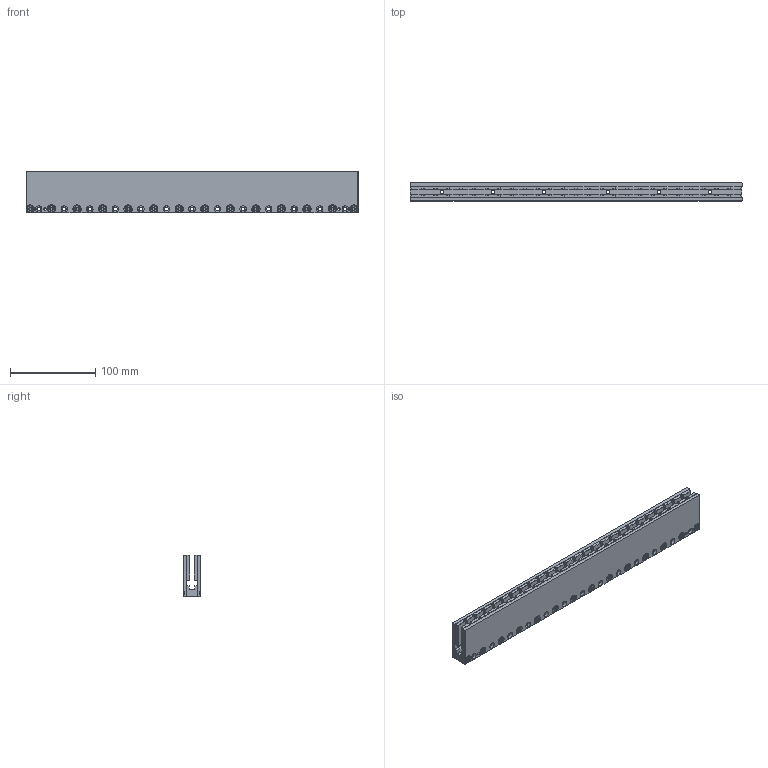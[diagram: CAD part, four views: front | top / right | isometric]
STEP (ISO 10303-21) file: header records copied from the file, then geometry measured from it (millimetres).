
FILE_DESCRIPTION (( 'STEP AP203' ), '1' );
FILE_NAME ('MY59-390.STEP', '2022-10-28T06:30:56', ( '' ), ( '' ), 'SwSTEP 2.0', 'SolidWorks 2021', '' );
FILE_SCHEMA (( 'CONFIG_CONTROL_DESIGN' ));
Length unit declared in the file: inch
Products named in the file (1): MY59-390
Bounding box: 389.9 x 21.1 x 49.2 mm (x, y, z)
Volume: 276169.9 mm3; surface area: 173105.4 mm2
Topology: 83 solids, 83 shells, 2750 faces, 6636 edges, 4052 vertices
Faces by surface type: cylinder 1344, plane 762, torus 416, cone 228
Entity records: 80519 total; most frequent: DIRECTION 15358, CARTESIAN_POINT 13619, ORIENTED_EDGE 13272, EDGE_CURVE 6636, AXIS2_PLACEMENT_3D 6031, VERTEX_POINT 4052, LINE 3296, VECTOR 3296
